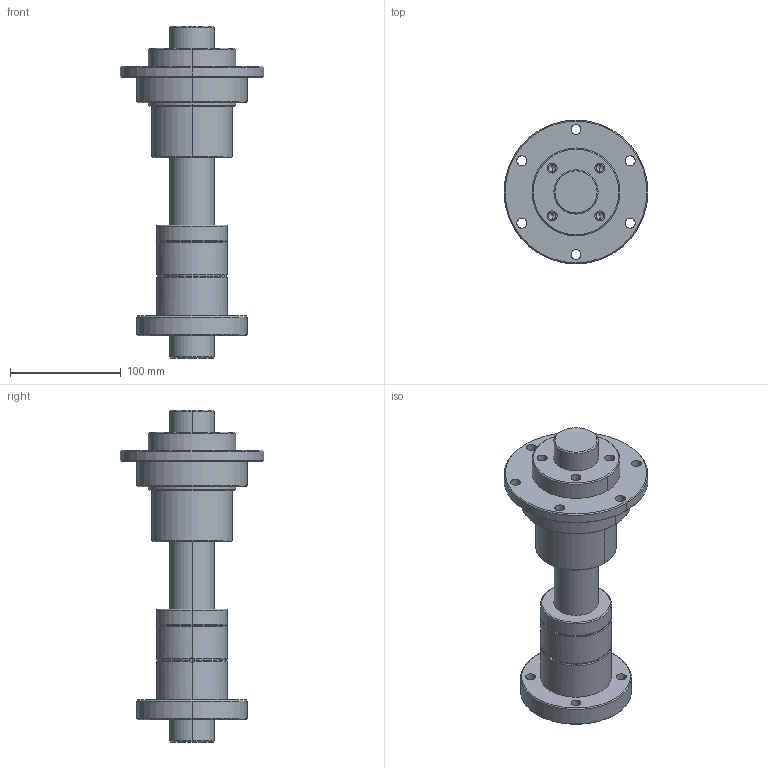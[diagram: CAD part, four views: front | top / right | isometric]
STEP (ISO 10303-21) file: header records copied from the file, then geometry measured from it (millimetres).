
FILE_DESCRIPTION (( 'STEP AP203' ), '1' );
FILE_NAME ('RSLY4040.STEP', '2026-06-01T05:27:26', ( '' ), ( '' ), 'SwSTEP 2.0', 'SolidWorks 2024', '' );
FILE_SCHEMA (( 'CONFIG_CONTROL_DESIGN' ));
Length unit declared in the file: millimetre
Products named in the file (4): SC40; RSLY4040; RFSY4040; SLF40
Assembly tree (3 placements, depth 2):
  RSLY4040
    SC40
    RFSY4040
    SLF40
Bounding box: 130 x 130 x 300 mm (x, y, z)
Volume: 1117945.9 mm3; surface area: 165030.3 mm2
Topology: 4 solids, 4 shells, 143 faces, 330 edges, 202 vertices
Faces by surface type: cylinder 78, cone 28, plane 23, torus 14
Entity records: 4714 total; most frequent: CARTESIAN_POINT 921, DIRECTION 786, ORIENTED_EDGE 644, AXIS2_PLACEMENT_3D 339, EDGE_CURVE 322, VERTEX_POINT 202, CIRCLE 190, EDGE_LOOP 188
